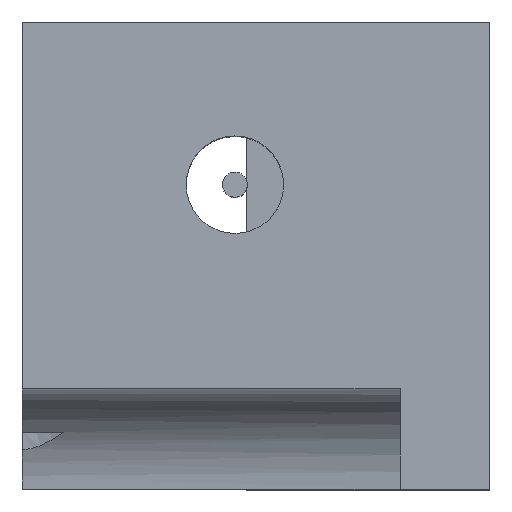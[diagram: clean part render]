
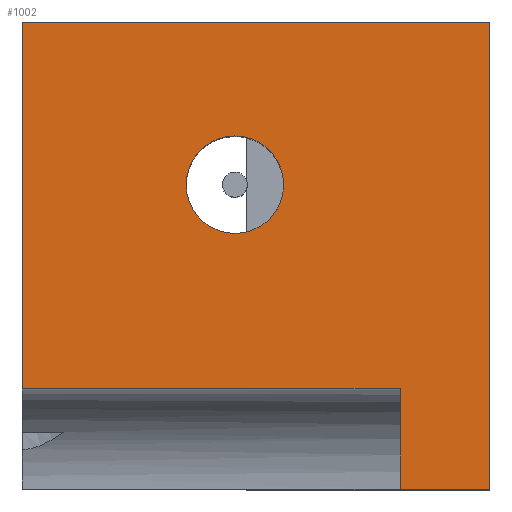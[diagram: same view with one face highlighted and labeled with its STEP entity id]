
A CAD part, top view. The second image highlights one B-rep face of the part: STEP entity #1002.
In plain terms, the highlighted planar face has unit normal (0, 0, 1).
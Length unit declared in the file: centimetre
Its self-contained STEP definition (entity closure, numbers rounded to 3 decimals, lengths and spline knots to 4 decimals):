
#8 = CARTESIAN_POINT ( 'NONE',  ( 0., 1000., 1000. ) ) ;
#23 = CARTESIAN_POINT ( 'NONE',  ( 808.358, 215.7622, 1000. ) ) ;
#28 = CARTESIAN_POINT ( 'NONE',  ( 454.8725, 651.8301, 1000. ) ) ;
#49 = CIRCLE ( 'NONE', #443, 104.2389 ) ;
#73 = VECTOR ( 'NONE', #799, 100. ) ;
#100 = ORIENTED_EDGE ( 'NONE', *, *, #248, .F. ) ;
#111 = LINE ( 'NONE', #1218, #118 ) ;
#118 = VECTOR ( 'NONE', #1329, 100. ) ;
#133 = DIRECTION ( 'NONE',  ( 0., 0., 1. ) ) ;
#136 = DIRECTION ( 'NONE',  ( 0., -1., 0. ) ) ;
#161 = EDGE_LOOP ( 'NONE', ( #239, #755, #352, #1271, #175, #601 ) ) ;
#168 = EDGE_CURVE ( 'NONE', #1367, #1136, #658, .T. ) ;
#175 = ORIENTED_EDGE ( 'NONE', *, *, #1241, .T. ) ;
#204 = EDGE_CURVE ( 'NONE', #1077, #648, #111, .T. ) ;
#229 = CARTESIAN_POINT ( 'NONE',  ( 0., 1000., 1000. ) ) ;
#239 = ORIENTED_EDGE ( 'NONE', *, *, #840, .F. ) ;
#243 = CARTESIAN_POINT ( 'NONE',  ( 1000., 0., 1000. ) ) ;
#248 = EDGE_CURVE ( 'NONE', #928, #369, #49, .T. ) ;
#275 = DIRECTION ( 'NONE',  ( 1., 0., 0. ) ) ;
#286 = EDGE_CURVE ( 'NONE', #867, #1390, #1335, .T. ) ;
#305 = FACE_BOUND ( 'NONE', #912, .T. ) ;
#352 = ORIENTED_EDGE ( 'NONE', *, *, #943, .T. ) ;
#369 = VERTEX_POINT ( 'NONE', #1122 ) ;
#374 = VECTOR ( 'NONE', #136, 100. ) ;
#401 = PLANE ( 'NONE',  #609 ) ;
#443 = AXIS2_PLACEMENT_3D ( 'NONE', #28, #982, #464 ) ;
#458 = AXIS2_PLACEMENT_3D ( 'NONE', #1098, #133, #1004 ) ;
#464 = DIRECTION ( 'NONE',  ( 1., 0., 0. ) ) ;
#507 = CARTESIAN_POINT ( 'NONE',  ( 0., 0., 1000. ) ) ;
#521 = DIRECTION ( 'NONE',  ( 1., 0., 0. ) ) ;
#601 = ORIENTED_EDGE ( 'NONE', *, *, #286, .T. ) ;
#609 = AXIS2_PLACEMENT_3D ( 'NONE', #1372, #815, #275 ) ;
#648 = VERTEX_POINT ( 'NONE', #806 ) ;
#658 = LINE ( 'NONE', #1311, #73 ) ;
#703 = CARTESIAN_POINT ( 'NONE',  ( 0., 215.7622, 1000. ) ) ;
#707 = VECTOR ( 'NONE', #1316, 100. ) ;
#755 = ORIENTED_EDGE ( 'NONE', *, *, #204, .T. ) ;
#795 = ORIENTED_EDGE ( 'NONE', *, *, #1295, .F. ) ;
#799 = DIRECTION ( 'NONE',  ( 0., 1., 0. ) ) ;
#806 = CARTESIAN_POINT ( 'NONE',  ( 808.358, 0., 1000. ) ) ;
#815 = DIRECTION ( 'NONE',  ( 0., 0., 1. ) ) ;
#840 = EDGE_CURVE ( 'NONE', #1077, #1390, #1214, .T. ) ;
#867 = VERTEX_POINT ( 'NONE', #8 ) ;
#912 = EDGE_LOOP ( 'NONE', ( #100, #795 ) ) ;
#928 = VERTEX_POINT ( 'NONE', #940 ) ;
#940 = CARTESIAN_POINT ( 'NONE',  ( 559.1114, 651.8301, 1000. ) ) ;
#943 = EDGE_CURVE ( 'NONE', #648, #1367, #1351, .T. ) ;
#955 = CARTESIAN_POINT ( 'NONE',  ( 1000., 1000., 1000. ) ) ;
#982 = DIRECTION ( 'NONE',  ( 0., 0., 1. ) ) ;
#1002 = ADVANCED_FACE ( 'NONE', ( #305, #1262 ), #401, .T. ) ;
#1004 = DIRECTION ( 'NONE',  ( 1., 0., 0. ) ) ;
#1070 = CIRCLE ( 'NONE', #458, 104.2389 ) ;
#1077 = VERTEX_POINT ( 'NONE', #1174 ) ;
#1098 = CARTESIAN_POINT ( 'NONE',  ( 454.8725, 651.8301, 1000. ) ) ;
#1107 = CARTESIAN_POINT ( 'NONE',  ( 0., 1000., 1000. ) ) ;
#1122 = CARTESIAN_POINT ( 'NONE',  ( 350.6337, 651.8301, 1000. ) ) ;
#1136 = VERTEX_POINT ( 'NONE', #955 ) ;
#1164 = VECTOR ( 'NONE', #521, 100. ) ;
#1174 = CARTESIAN_POINT ( 'NONE',  ( 808.358, 215.7622, 1000. ) ) ;
#1207 = DIRECTION ( 'NONE',  ( -1., 0., 0. ) ) ;
#1214 = LINE ( 'NONE', #23, #1373 ) ;
#1218 = CARTESIAN_POINT ( 'NONE',  ( 808.358, 0., 1000. ) ) ;
#1241 = EDGE_CURVE ( 'NONE', #1136, #867, #1303, .T. ) ;
#1262 = FACE_OUTER_BOUND ( 'NONE', #161, .T. ) ;
#1271 = ORIENTED_EDGE ( 'NONE', *, *, #168, .T. ) ;
#1295 = EDGE_CURVE ( 'NONE', #369, #928, #1070, .T. ) ;
#1303 = LINE ( 'NONE', #229, #707 ) ;
#1311 = CARTESIAN_POINT ( 'NONE',  ( 1000., 1000., 1000. ) ) ;
#1316 = DIRECTION ( 'NONE',  ( -1., 0., 0. ) ) ;
#1329 = DIRECTION ( 'NONE',  ( 0., -1., 0. ) ) ;
#1335 = LINE ( 'NONE', #1107, #374 ) ;
#1351 = LINE ( 'NONE', #507, #1164 ) ;
#1367 = VERTEX_POINT ( 'NONE', #243 ) ;
#1372 = CARTESIAN_POINT ( 'NONE',  ( 0., 0., 1000. ) ) ;
#1373 = VECTOR ( 'NONE', #1207, 100. ) ;
#1390 = VERTEX_POINT ( 'NONE', #703 ) ;
